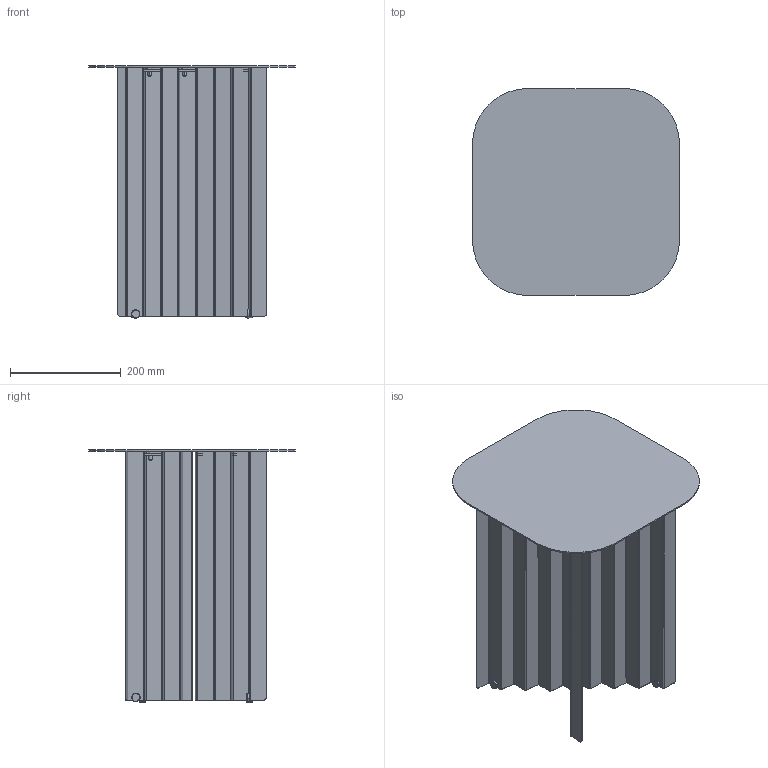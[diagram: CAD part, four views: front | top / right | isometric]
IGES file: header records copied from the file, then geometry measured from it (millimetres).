
Start section: START RECORD GO HERE.
Global section: file name: RS_Plec_Small.igs; native system: DASSAULT SYSTEMES CATIA V5 R21 - www.3ds.com; preprocessor: CATIA Version 5 Release 21 ; author: DISSENY; organization: DISSENY-PC; date: 20170510.162743; units: millimetre
Bounding box: 374 x 374 x 456 mm (x, y, z)
Surface area: 1160851.8 mm2 (no closed solid volume)
Topology: 0 solids, 0 shells, 492 faces, 2068 edges, 2068 vertices
Faces by surface type: plane 312, revolution 180
